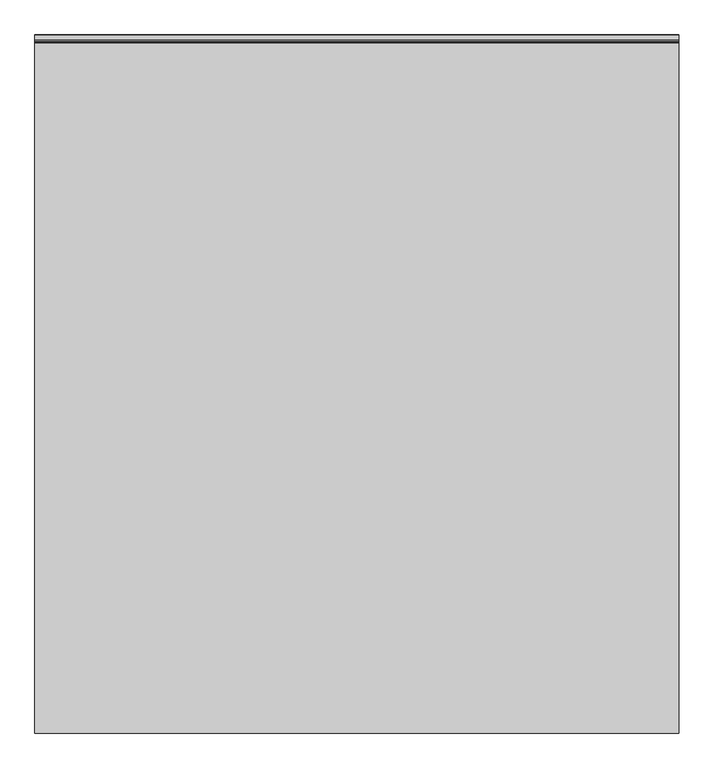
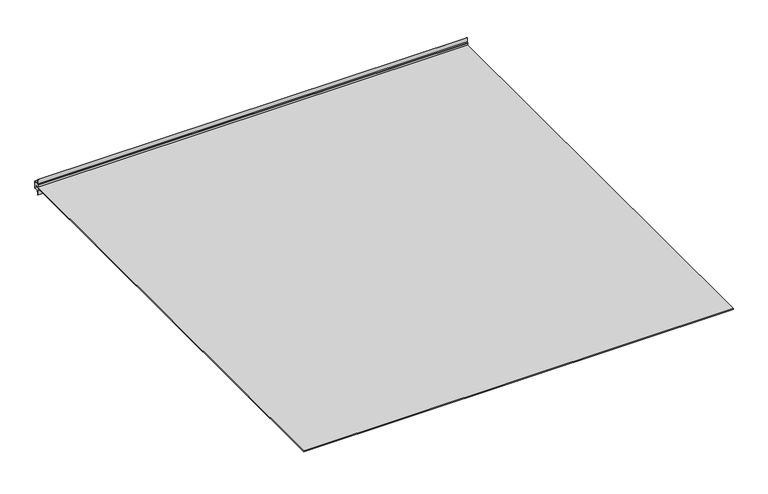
"""IFC4 building model written with IfcOpenShell, lengths in millimetres: proxy geometry, Specialy Equipment_Blindspace_TrackTrim-Click-to-Recess-Curtain-Tracks-Straight-Track : 2400 mm x 2600 mm."""

from ifc_helpers import new_model, si_unit, point, frame, frame_2d, origin, place, context, project, spatial, polyline, circle_curve, trimmed, segment, composite_curve, outline, extrude, source, transform, mapped, element, save


def specialty_equipment_b6fd1aad(model_context):
    return source(origin(), model_context, "Body", "SweptSolid", [
        extrude(outline(composite_curve([segment(trimmed(circle_curve(frame_2d((1299.4988864, -64.9988864)), 0.5011136), [point((1300.0, -64.9988864))], [point((1299.4988864, -65.5))], False, "CARTESIAN"), True, "CONTINUOUS"), segment(polyline([(1299.4988864, -65.5), (1279.5663509, -65.5)]), True, "CONTINUOUS"), segment(trimmed(circle_curve(frame_2d((1275.9465479, -66.4521158)), 3.7429265), [point((1279.5663509, -65.5))], [point((1274.5, -69.9042163))], False, "CARTESIAN"), True, "CONTINUOUS"), segment(polyline([(1274.5, -69.9042163), (1274.5, -90.0), (1272.4387528, -90.0), (1272.4387528, -65.6247497), (1270.0, -62.6937639), (1273.6097179, -62.6937639), (1295.5252948, -60.8778609), (1295.5252948, -58.8933333), (1270.0, -58.8933333), (1270.0, -48.0), (1286.4878459, -48.0), (1286.4878459, -42.0), (1270.0, -42.0), (1270.0, -31.1066667), (1295.5252948, -31.1066667), (1295.5252948, -29.1221391), (1273.6097179, -27.3062361), (1270.0, -27.3062361), (1272.4387528, -24.3752503), (1272.4387528, 0.0), (1274.5, 0.0), (1274.5, -20.0957837)]), True, "CONTINUOUS"), segment(trimmed(circle_curve(frame_2d((1275.9465479, -23.5478842)), 3.7429265), [point((1274.5, -20.0957837))], [point((1279.5663509, -24.5))], False, "CARTESIAN"), True, "CONTINUOUS"), segment(polyline([(1279.5663509, -24.5), (1299.4988864, -24.5)]), True, "CONTINUOUS"), segment(trimmed(circle_curve(frame_2d((1299.4988864, -25.0011136)), 0.5011136), [point((1299.4988864, -24.5))], [point((1300.0, -25.0011136))], False, "CARTESIAN"), True, "CONTINUOUS"), segment(polyline([(1300.0, -25.0011136), (1300.0, -64.9988864)]), True, "CONTINUOUS")], self_intersect=False)), frame((-1200.0, 0.0, 0.0), z_axis=(1.0, 0.0, 0.0), x_axis=(0.0, 1.0, 0.0)), (0.0, 0.0, 1.0), 2400.0),
        extrude(outline(polyline([(1200.0, 1286.4878459), (1200.0, -1300.0), (-1200.0, -1300.0), (-1200.0, 1286.4878459), (1200.0, 1286.4878459)])), frame((0.0, 0.0, -48.0), z_axis=(0.0, 0.0, 1.0), x_axis=(1.0, 0.0, 0.0)), (0.0, 0.0, 1.0), 6.0),
    ])


if __name__ == "__main__":
    model = new_model("IFC4")
    model_context = context("Model", 3, world=origin())
    ifc_project = project(units=[si_unit("LENGTHUNIT", "METRE", prefix="MILLI")], contexts=[model_context])
    site = spatial("IfcSite", under=ifc_project)
    building = spatial("IfcBuilding", under=site)
    placement = place(None, origin())
    specialty_equipment_shape = specialty_equipment_b6fd1aad(model_context)
    element("IfcBuildingElementProxy", 1, Name="Specialy Equipment_Blindspace_TrackTrim-Click-to-Recess-Curtain-Tracks-Straight-Track : 2400 mm x 2600 mm", ObjectType="Specialy Equipment_Blindspace_TrackTrim-Click-to-Recess-Curtain-Tracks-Straight-Track : 2400 mm x 2600 mm", at=placement, inside=building, context=model_context, shape_type="MappedRepresentation", body=[
        mapped(specialty_equipment_shape, transform((0.0, 0.0, 0.0), x_axis=(1.0, 0.0, 0.0), y_axis=(0.0, 1.0, 0.0), z_axis=(0.0, 0.0, 1.0))),
    ])
    save(model, "model.ifc")
